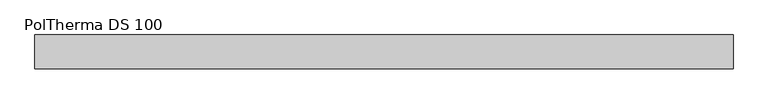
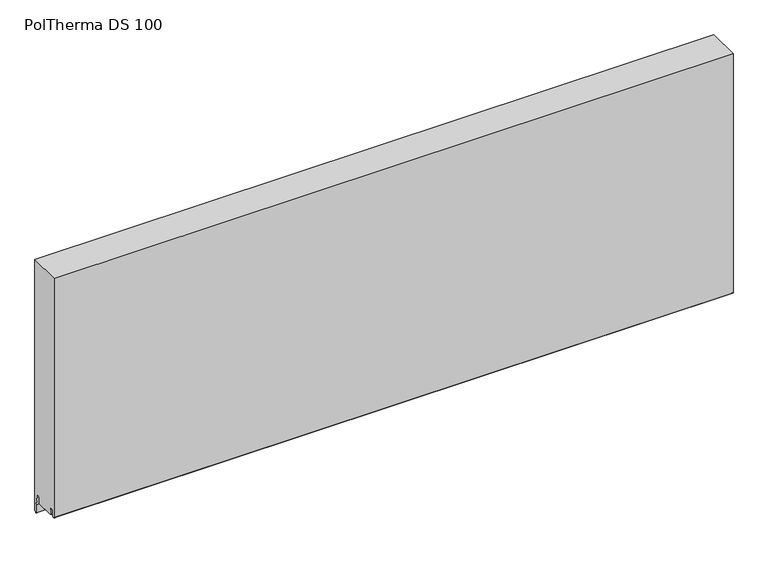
"""IFC4 building model written with IfcOpenShell, lengths in millimetres: plate geometry, Europanels_Poltherma DS_Hz : PolTherma DS 100."""

from ifc_helpers import new_model, si_unit, point, frame, frame_2d, origin, place, context, project, spatial, polyline, circle_curve, trimmed, segment, composite_curve, outline, extrude, source, transform, mapped, element, save


def poltherma_ds_100_0579be61(model_context):
    return source(origin(), model_context, "Body", "SweptSolid", [
        extrude(outline(composite_curve([segment(polyline([(50.0, 25.6419265), (46.7337298, 19.9625485)]), True, "CONTINUOUS"), segment(trimmed(circle_curve(frame_2d((45.0, 20.9596348)), 2.0), [point((46.7337298, 19.9625485))], [point((43.0, 20.9596348))], False, "CARTESIAN"), True, "CONTINUOUS"), segment(polyline([(43.0, 20.9596348), (43.0, 46.1009555), (36.5910205, 79.139881)]), True, "CONTINUOUS"), segment(trimmed(circle_curve(frame_2d((34.241537, 78.2855234)), 2.5), [point((36.5910205, 79.139881))], [point((34.241537, 80.7855234))], True, "CARTESIAN"), True, "CONTINUOUS"), segment(polyline([(34.241537, 80.7855234), (30.834547, 80.7855234)]), True, "CONTINUOUS"), segment(trimmed(circle_curve(frame_2d((30.834547, 78.2855234)), 2.5), [point((30.834547, 80.7855234))], [point((28.3408974, 78.4636008))], True, "CARTESIAN"), True, "CONTINUOUS"), segment(polyline([(28.3408974, 78.4636008), (27.6811293, 60.6896109)]), True, "CONTINUOUS"), segment(trimmed(circle_curve(frame_2d((25.1828499, 60.7823467)), 2.5), [point((27.6811293, 60.6896109))], [point((25.1828499, 58.2823467))], False, "CARTESIAN"), True, "CONTINUOUS"), segment(polyline([(25.1828499, 58.2823467), (-30.600093, 59.7823467)]), True, "CONTINUOUS"), segment(trimmed(circle_curve(frame_2d((-30.600093, 61.5323467)), 1.75), [point((-30.600093, 59.7823467))], [point((-32.3401385, 61.3459555))], False, "CARTESIAN"), True, "CONTINUOUS"), segment(polyline([(-32.3401385, 61.3459555), (-33.3927633, 79.6050511)]), True, "CONTINUOUS"), segment(trimmed(circle_curve(frame_2d((-36.3756985, 79.2855234)), 3.0), [point((-33.3927633, 79.6050511))], [point((-36.3756985, 82.2855234))], True, "CARTESIAN"), True, "CONTINUOUS"), segment(polyline([(-36.3756985, 82.2855234), (-39.3243673, 82.2855234)]), True, "CONTINUOUS"), segment(trimmed(circle_curve(frame_2d((-39.3243673, 79.2855234)), 3.0), [point((-39.3243673, 82.2855234))], [point((-42.3087485, 79.5912504))], True, "CARTESIAN"), True, "CONTINUOUS"), segment(polyline([(-42.3087485, 79.5912504), (-43.283254, 61.5785287)]), True, "CONTINUOUS"), segment(trimmed(circle_curve(frame_2d((-45.2728415, 61.7823467)), 2.0), [point((-43.283254, 61.5785287))], [point((-45.2728415, 59.7823467))], False, "CARTESIAN"), True, "CONTINUOUS"), segment(polyline([(-45.2728415, 59.7823467), (-48.0, 59.7823467)]), True, "CONTINUOUS"), segment(trimmed(circle_curve(frame_2d((-48.0, 61.7823467)), 2.0), [point((-48.0, 59.7823467))], [point((-50.0, 61.7823467))], False, "CARTESIAN"), True, "CONTINUOUS"), segment(polyline([(-50.0, 61.7823467), (-50.0, 825.0), (50.0, 825.0), (50.0, 25.6419265)]), True, "CONTINUOUS")], self_intersect=False)), frame((-1025.0, 0.0, 0.0), z_axis=(1.0, 0.0, 0.0), x_axis=(0.0, 1.0, 0.0)), (0.0, 0.0, 1.0), 2050.0),
    ])


if __name__ == "__main__":
    model = new_model("IFC4")
    model_context = context("Model", 3, world=origin())
    ifc_project = project(units=[si_unit("LENGTHUNIT", "METRE", prefix="MILLI")], contexts=[model_context])
    site = spatial("IfcSite", under=ifc_project)
    building = spatial("IfcBuilding", under=site)
    placement = place(None, origin())
    poltherma_ds_100_shape = poltherma_ds_100_0579be61(model_context)
    element("IfcPlate", 1, ObjectType="Europanels_Poltherma DS_Hz : PolTherma DS 100", at=placement, inside=building, context=model_context, shape_type="MappedRepresentation", body=[
        mapped(poltherma_ds_100_shape, transform((0.0, 0.0, 0.0), x_axis=(1.0, 0.0, 0.0), y_axis=(0.0, 1.0, 0.0), z_axis=(0.0, 0.0, 1.0))),
    ])
    save(model, "model.ifc")
